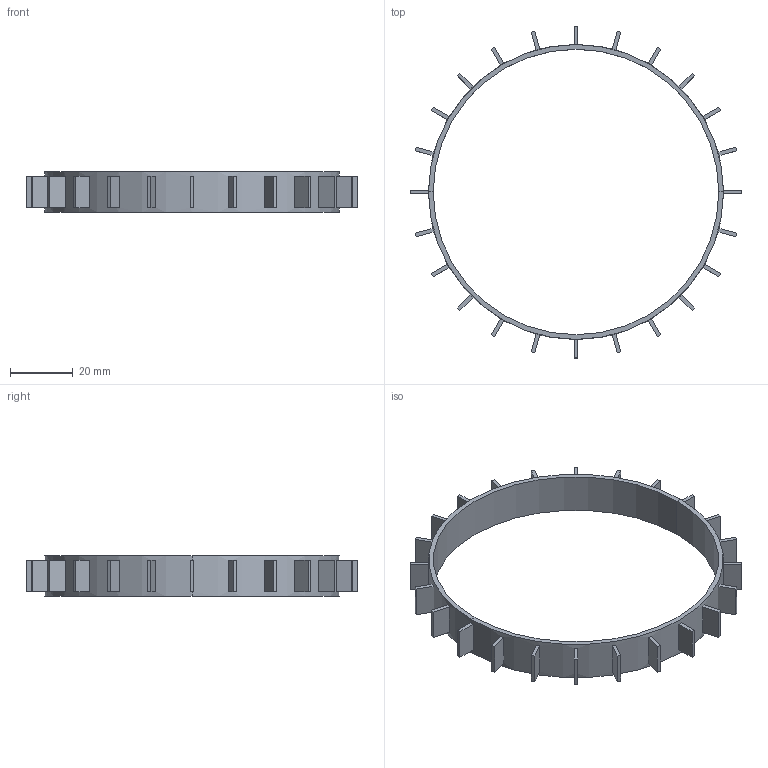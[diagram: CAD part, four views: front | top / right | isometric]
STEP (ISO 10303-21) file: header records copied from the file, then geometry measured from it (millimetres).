
FILE_DESCRIPTION(('BendCAD AP242 PMI export'),'2;1');
FILE_NAME('bendcad.step','',('BendCAD'),('BendCAD'),'BendCAD','BendCAD','');
FILE_SCHEMA(('AP242_MANAGED_MODEL_BASED_3D_ENGINEERING_MIM_LF'));
Length unit declared in the file: millimetre
Products named in the file (1): BENDCAD
Bounding box: 105.8 x 105.8 x 13 mm (x, y, z)
Volume: 7366.2 mm3; surface area: 11601.1 mm2
Topology: 1 solids, 1 shells, 128 faces, 310 edges, 204 vertices
Faces by surface type: plane 124, cylinder 4
Entity records: 3384 total; most frequent: ORIENTED_EDGE 620, DIRECTION 524, CARTESIAN_POINT 497, EDGE_CURVE 310, VECTOR 250, LINE 250, VERTEX_POINT 204, EDGE_LOOP 150
